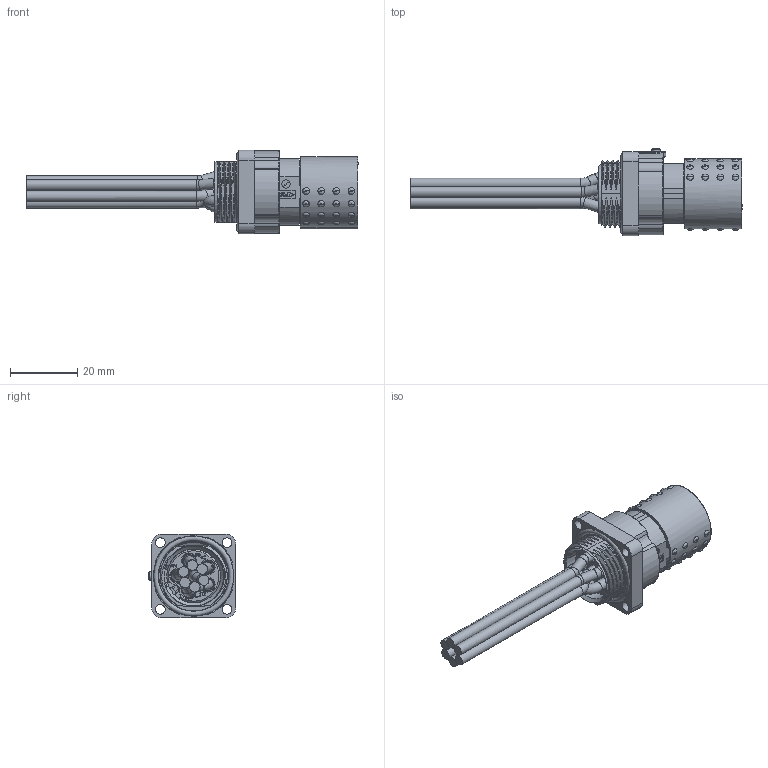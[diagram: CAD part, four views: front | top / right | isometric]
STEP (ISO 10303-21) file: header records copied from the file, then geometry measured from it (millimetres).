
FILE_DESCRIPTION (( 'STEP AP214' ), '1' );
FILE_NAME ('X-TEC_15M_ANBAU-BU_STEP.STEP', '2023-09-25T10:36:57', ( '' ), ( '' ), 'SwSTEP 2.0', 'SolidWorks 2021', '' );
FILE_SCHEMA (( 'AUTOMOTIVE_DESIGN' ));
Length unit declared in the file: millimetre
Products named in the file (1): X-TEC_15M_ANBAU-BU_STEP
Bounding box: 98.91 x 26 x 25.01 mm (x, y, z)
Volume: 14004.5 mm3; surface area: 24890.5 mm2
Topology: 22 solids, 22 shells, 2311 faces, 5435 edges, 3603 vertices
Faces by surface type: plane 1083, cylinder 757, bspline 342, cone 75, torus 48, sphere 6
Full cylindrical faces by diameter (mm): 0.2 x330, 0.8 x6, 1.6 x12, 2.25 x6, 2.453 x1, 2.5 x14, 2.6 x7, 2.9 x4, 3.1 x17, 3.12 x6, 3.3 x6, 3.5 x12, 3.6 x6, 4 x6, 4.2 x3, 4.6 x4, 4.7 x4, 15.4 x1, 15.5 x1, 15.63 x1, 16 x1, 16.07 x1, 16.8 x1, 16.9 x1, 18 x1, 18.4 x1, 20.5 x1, 21 x2
Entity records: 141922 total; most frequent: CARTESIAN_POINT 68985, ORIENTED_EDGE 9408, DIRECTION 8824, EDGE_CURVE 4704, AXIS2_PLACEMENT_3D 3493, VERTEX_POINT 3418, EDGE_LOOP 3354, FACE_OUTER_BOUND 2777
